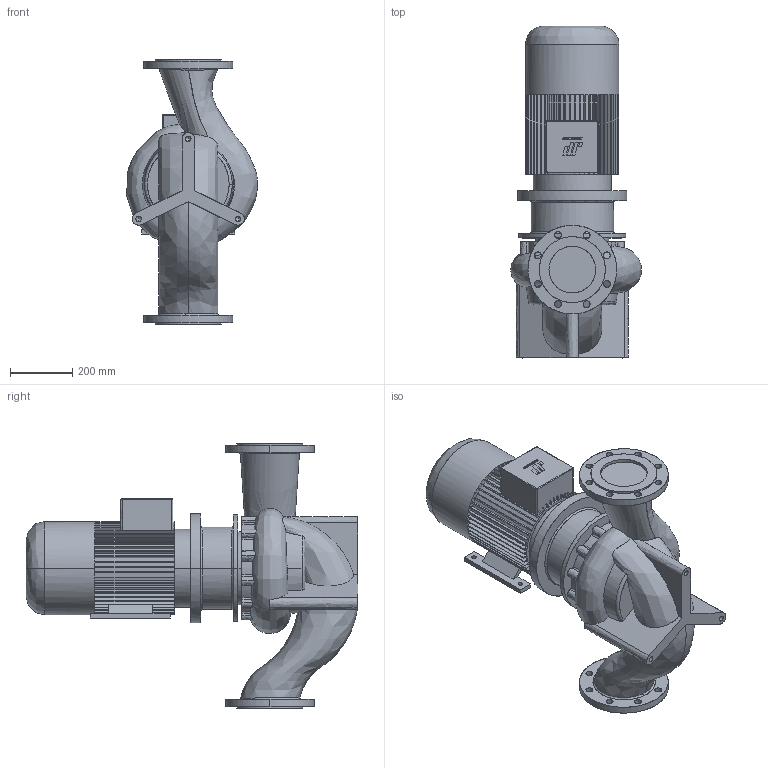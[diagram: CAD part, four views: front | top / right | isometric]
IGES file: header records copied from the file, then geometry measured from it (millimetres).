
Start section: CombiLine
Global section: file name: CLB_150-250_IEC160M_ND10.igs; native system:  By UGS Corp.; preprocessor: XPlus GENERIC/IGES 3.0; author: Stageplaats; organization: Johnson Pump Water B.V.; date: 20070718.084247; units: millimetre
Bounding box: 420.53 x 1066.5 x 850 mm (x, y, z)
Surface area: 2517155.5 mm2 (no closed solid volume)
Topology: 0 solids, 0 shells, 613 faces, 3720 edges, 3714 vertices
Faces by surface type: bspline 613
